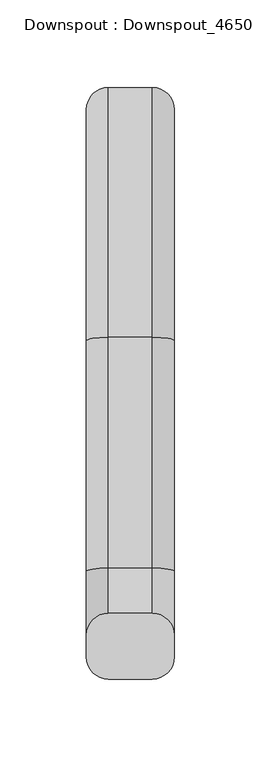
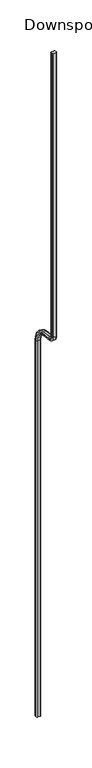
"""IFC4 building model written with IfcOpenShell, lengths in millimetres: proxy geometry, Downspout : Downspout_4650."""

from ifc_helpers import new_model, si_unit, point, frame, origin, place, context, project, spatial, polyline, circle_curve, ellipse_curve, trimmed, source, transform, mapped, element, save
from ifc_brep_helpers import plane_surface, cylinder_surface, revolved_surface, advanced_brep


def downspout_downspout_4650_81a1eef7(model_context):
    return source(origin(), model_context, "Body", "AdvancedBrep", [
        advanced_brep(
        [(-12.7, -323.85, 7975.6), (12.7, -323.85, 7975.6), (25.4, -311.15, 7975.6), (25.4, -298.45, 7975.6), (12.7, -285.75, 7975.6), (-12.7, -285.75, 7975.6), (-25.4, -298.45, 7975.6), (-25.4, -311.15, 7975.6), (-12.7, -323.85, 4643.3010696), (12.7, -323.85, 4643.3010696), (25.4, -311.15, 4643.3010696), (25.4, -262.9402297, 4586.8546809), (25.4, -129.5527464, 4565.728179), (25.4, -6.35, 4421.4762969), (25.4, -6.35, 0.0), (25.4, 6.35, 0.0), (25.4, 6.35, 4421.4762969), (25.4, -127.5660287, 4578.271821), (25.4, -260.953512, 4599.3983229), (25.4, -298.45, 4643.3010696), (12.7, -285.75, 4643.3010696), (-12.7, -285.75, 4643.3010696), (-25.4, -298.45, 4643.3010696), (-25.4, -260.953512, 4599.3983229), (-25.4, -127.5660287, 4578.271821), (-25.4, 6.35, 4421.4762969), (-25.4, 6.35, 0.0), (-25.4, -6.35, 0.0), (-25.4, -6.35, 4421.4762969), (-25.4, -129.5527464, 4565.728179), (-25.4, -262.9402297, 4586.8546809), (-25.4, -311.15, 4643.3010696), (12.7, -264.9269474, 4574.311039), (-12.7, -264.9269474, 4574.311039), (12.7, -258.9667943, 4611.9419648), (-12.7, -258.9667943, 4611.9419648), (-12.7, -131.5394641, 4553.1845371), (12.7, -131.5394641, 4553.1845371), (12.7, -125.579311, 4590.8154629), (-12.7, -125.579311, 4590.8154629), (12.7, -19.05, 4421.4762969), (-12.7, -19.05, 4421.4762969), (12.7, 19.05, 4421.4762969), (-12.7, 19.05, 4421.4762969), (-12.7, -19.05, 0.0), (-12.7, 19.05, 0.0), (12.7, 19.05, 0.0), (12.7, -19.05, 0.0)],
        [
            (0, 1),
            (1, 2, circle_curve(frame((12.7, -311.15, 7975.6), z_axis=(0.0, 0.0, 1.0), x_axis=(1.0, 0.0, 0.0)), 12.7)),
            (2, 3),
            (3, 4, circle_curve(frame((12.7, -298.45, 7975.6), z_axis=(0.0, 0.0, 1.0), x_axis=(1.0, 0.0, 0.0)), 12.7)),
            (4, 5),
            (5, 6, circle_curve(frame((-12.7, -298.45, 7975.6), z_axis=(0.0, 0.0, 1.0), x_axis=(1.0, 0.0, 0.0)), 12.7)),
            (6, 7),
            (7, 0, circle_curve(frame((-12.7, -311.15, 7975.6), z_axis=(0.0, 0.0, 1.0), x_axis=(1.0, 0.0, 0.0)), 12.7)),
            (0, 8),
            (8, 9),
            (9, 1),
            (9, 10, circle_curve(frame((12.7, -311.15, 4643.3010696), z_axis=(0.0, 0.0, 1.0), x_axis=(1.0, 0.0, 0.0)), 12.7)),
            (10, 2),
            (10, 11, circle_curve(frame((25.4, -254.0, 4643.3010696), z_axis=(1.0, 0.0, 0.0), x_axis=(0.0, -1.0, 0.0)), 57.15)),
            (11, 12),
            (12, 13, circle_curve(frame((25.4, -152.4, 4421.4762969), z_axis=(-1.0, 0.0, 0.0), x_axis=(0.0, 0.15643446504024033, 0.9876883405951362)), 146.05)),
            (13, 14),
            (14, 15),
            (15, 16),
            (16, 17, circle_curve(frame((25.4, -152.4, 4421.4762969), z_axis=(1.0, 0.0, 0.0), x_axis=(0.0, 0.15643446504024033, 0.9876883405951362)), 158.75)),
            (17, 18),
            (18, 19, circle_curve(frame((25.4, -254.0, 4643.3010696), z_axis=(-1.0, 0.0, 0.0), x_axis=(0.0, -1.0, 0.0)), 44.45)),
            (19, 3),
            (19, 20, circle_curve(frame((12.7, -298.45, 4643.3010696), z_axis=(0.0, 0.0, 1.0), x_axis=(1.0, 0.0, 0.0)), 12.7)),
            (20, 4),
            (20, 21),
            (21, 5),
            (21, 22, circle_curve(frame((-12.7, -298.45, 4643.3010696), z_axis=(0.0, 0.0, 1.0), x_axis=(1.0, 0.0, 0.0)), 12.7)),
            (22, 6),
            (22, 23, circle_curve(frame((-25.4, -254.0, 4643.3010696), z_axis=(1.0, 0.0, 0.0), x_axis=(0.0, -1.0, 0.0)), 44.45)),
            (23, 24),
            (24, 25, circle_curve(frame((-25.4, -152.4, 4421.4762969), z_axis=(-1.0, 0.0, 0.0), x_axis=(0.0, 0.15643446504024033, 0.9876883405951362)), 158.75)),
            (25, 26),
            (26, 27),
            (27, 28),
            (28, 29, circle_curve(frame((-25.4, -152.4, 4421.4762969), z_axis=(1.0, 0.0, 0.0), x_axis=(0.0, 0.15643446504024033, 0.9876883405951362)), 146.05)),
            (29, 30),
            (30, 31, circle_curve(frame((-25.4, -254.0, 4643.3010696), z_axis=(-1.0, 0.0, 0.0), x_axis=(0.0, -1.0, 0.0)), 57.15)),
            (31, 7),
            (31, 8, circle_curve(frame((-12.7, -311.15, 4643.3010696), z_axis=(0.0, 0.0, 1.0), x_axis=(1.0, 0.0, 0.0)), 12.7)),
            (32, 9, circle_curve(frame((12.7, -254.0, 4643.3010696), z_axis=(-1.0, 0.0, 0.0), x_axis=(0.0, -1.0, 0.0)), 69.85)),
            (8, 33, circle_curve(frame((-12.7, -254.0, 4643.3010696), z_axis=(1.0, 0.0, 0.0), x_axis=(0.0, -1.0, 0.0)), 69.85)),
            (33, 32),
            (32, 11, circle_curve(frame((12.7, -262.9402297, 4586.8546809), z_axis=(0.0, -0.9876883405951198, 0.1564344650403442), x_axis=(1.0, 0.0, 0.0)), 12.7)),
            (34, 20, circle_curve(frame((12.7, -254.0, 4643.3010696), z_axis=(-1.0, 0.0, 0.0), x_axis=(0.0, -1.0, 0.0)), 31.75)),
            (18, 34, circle_curve(frame((12.7, -260.953512, 4599.3983229), z_axis=(0.0, -0.9876883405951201, 0.1564344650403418), x_axis=(1.0, 0.0, 0.0)), 12.7)),
            (35, 21, circle_curve(frame((-12.7, -254.0, 4643.3010696), z_axis=(-1.0, 0.0, 0.0), x_axis=(0.0, -1.0, 0.0)), 31.75)),
            (34, 35),
            (35, 23, circle_curve(frame((-12.7, -260.953512, 4599.3983229), z_axis=(0.0, -0.9876883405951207, 0.15643446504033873), x_axis=(1.0, 0.0, 0.0)), 12.7)),
            (30, 33, circle_curve(frame((-12.7, -262.9402297, 4586.8546809), z_axis=(0.0, -0.9876883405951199, 0.15643446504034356), x_axis=(1.0, 0.0, 0.0)), 12.7)),
            (33, 36),
            (36, 37),
            (37, 32),
            (37, 12, circle_curve(frame((12.7, -129.5527464, 4565.728179), z_axis=(0.0, -0.9876883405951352, 0.15643446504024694), x_axis=(1.0, 0.0, 0.0)), 12.7)),
            (17, 38, circle_curve(frame((12.7, -127.5660287, 4578.271821), z_axis=(0.0, -0.9876883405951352, 0.15643446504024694), x_axis=(1.0, 0.0, 0.0)), 12.7)),
            (38, 34),
            (38, 39),
            (39, 35),
            (39, 24, circle_curve(frame((-12.7, -127.5660287, 4578.271821), z_axis=(0.0, -0.9876883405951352, 0.15643446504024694), x_axis=(1.0, 0.0, 0.0)), 12.7)),
            (29, 36, circle_curve(frame((-12.7, -129.5527464, 4565.728179), z_axis=(0.0, -0.9876883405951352, 0.15643446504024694), x_axis=(1.0, 0.0, 0.0)), 12.7)),
            (40, 37, circle_curve(frame((12.7, -152.4, 4421.4762969), z_axis=(1.0, 0.0, 0.0), x_axis=(0.0, 0.15643446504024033, 0.9876883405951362)), 133.35)),
            (36, 41, circle_curve(frame((-12.7, -152.4, 4421.4762969), z_axis=(-1.0, 0.0, 0.0), x_axis=(0.0, 0.15643446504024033, 0.9876883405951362)), 133.35)),
            (41, 40),
            (40, 13, circle_curve(frame((12.7, -6.35, 4421.4762969), z_axis=(0.0, 0.0, 1.0), x_axis=(1.0, 0.0, 0.0)), 12.7)),
            (42, 38, circle_curve(frame((12.7, -152.4, 4421.4762969), z_axis=(1.0, 0.0, 0.0), x_axis=(0.0, 0.15643446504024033, 0.9876883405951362)), 171.45)),
            (16, 42, circle_curve(frame((12.7, 6.35, 4421.4762969), z_axis=(0.0, 0.0, 1.0), x_axis=(1.0, 0.0, 0.0)), 12.7)),
            (43, 39, circle_curve(frame((-12.7, -152.4, 4421.4762969), z_axis=(1.0, 0.0, 0.0), x_axis=(0.0, 0.15643446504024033, 0.9876883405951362)), 171.45)),
            (42, 43),
            (43, 25, circle_curve(frame((-12.7, 6.35, 4421.4762969), z_axis=(0.0, 0.0, 1.0), x_axis=(1.0, 0.0, 0.0)), 12.7)),
            (28, 41, circle_curve(frame((-12.7, -6.35, 4421.4762969), z_axis=(0.0, 0.0, 1.0), x_axis=(1.0, 0.0, 0.0)), 12.7)),
            (44, 27, circle_curve(frame((-12.7, -6.35, 0.0), z_axis=(0.0, 0.0, -1.0), x_axis=(1.0, 0.0, 0.0)), 12.7)),
            (26, 45, circle_curve(frame((-12.7, 6.35, 0.0), z_axis=(0.0, 0.0, -1.0), x_axis=(1.0, 0.0, 0.0)), 12.7)),
            (45, 46),
            (46, 15, circle_curve(frame((12.7, 6.35, 0.0), z_axis=(0.0, 0.0, -1.0), x_axis=(1.0, 0.0, 0.0)), 12.7)),
            (14, 47, circle_curve(frame((12.7, -6.35, 0.0), z_axis=(0.0, 0.0, -1.0), x_axis=(1.0, 0.0, 0.0)), 12.7)),
            (47, 44),
            (41, 44),
            (47, 40),
            (46, 42),
            (45, 43),
        ],
        [
            plane_surface(frame((0.0, -304.8, 7975.6), z_axis=(0.0, 0.0, 1.0), x_axis=(1.0, 0.0, 0.0))),
            plane_surface(frame((-12.7, -323.85, 7975.6), z_axis=(0.0, -1.0, 0.0), x_axis=(0.0, 0.0, -1.0))),
            cylinder_surface(frame((12.7, -311.15, 7975.6), z_axis=(0.0, 0.0, 1.0), x_axis=(1.0, 0.0, 0.0)), 12.7),
            plane_surface(frame((25.4, -311.15, 7975.6), z_axis=(1.0, 0.0, 0.0), x_axis=(0.0, 0.0, -1.0))),
            cylinder_surface(frame((12.7, -298.45, 7975.6), z_axis=(0.0, 0.0, 1.0), x_axis=(1.0, 0.0, 0.0)), 12.7),
            plane_surface(frame((12.7, -285.75, 7975.6), z_axis=(0.0, 1.0, 0.0), x_axis=(0.0, 0.0, -1.0))),
            cylinder_surface(frame((-12.7, -298.45, 7975.6), z_axis=(0.0, 0.0, 1.0), x_axis=(1.0, 0.0, 0.0)), 12.7),
            plane_surface(frame((-25.4, -298.45, 7975.6), z_axis=(-1.0, 0.0, 0.0), x_axis=(0.0, 0.0, -1.0))),
            cylinder_surface(frame((-12.7, -311.15, 7975.6), z_axis=(0.0, 0.0, 1.0), x_axis=(1.0, 0.0, 0.0)), 12.7),
            cylinder_surface(frame((0.0, -254.0, 4643.3010696), z_axis=(1.0, 0.0, 0.0), x_axis=(0.0, -1.0, 0.0)), 69.85),
            revolved_surface(trimmed(ellipse_curve(frame((12.7, -311.15, 4643.3010696), z_axis=(0.0, 0.0, 1.0), x_axis=(1.0, 0.0, 0.0)), 12.7, 12.7), [point((12.7, -323.85, 4643.3010696))], [point((25.4, -311.15, 4643.3010696))], True, "CARTESIAN"), (0.0, -254.0, 4643.3010696), (1.0, 0.0, 0.0)),
            revolved_surface(trimmed(ellipse_curve(frame((12.7, -298.45, 4643.3010696), z_axis=(0.0, 0.0, 1.0), x_axis=(1.0, 0.0, 0.0)), 12.7, 12.7), [point((25.4, -298.45, 4643.3010696))], [point((12.7, -285.75, 4643.3010696))], True, "CARTESIAN"), (0.0, -254.0, 4643.3010696), (1.0, 0.0, 0.0)),
            revolved_surface(polyline([(12.7, -285.75, 4643.3010696), (-12.7, -285.75, 4643.3010696)]), (0.0, -254.0, 4643.3010696), (1.0, 0.0, 0.0)),
            revolved_surface(trimmed(ellipse_curve(frame((-12.7, -298.45, 4643.3010696), z_axis=(0.0, 0.0, 1.0), x_axis=(1.0, 0.0, 0.0)), 12.7, 12.7), [point((-12.7, -285.75, 4643.3010696))], [point((-25.4, -298.45, 4643.3010696))], True, "CARTESIAN"), (0.0, -254.0, 4643.3010696), (1.0, 0.0, 0.0)),
            revolved_surface(trimmed(ellipse_curve(frame((-12.7, -311.15, 4643.3010696), z_axis=(0.0, 0.0, 1.0), x_axis=(1.0, 0.0, 0.0)), 12.7, 12.7), [point((-25.4, -311.15, 4643.3010696))], [point((-12.7, -323.85, 4643.3010696))], True, "CARTESIAN"), (0.0, -254.0, 4643.3010696), (1.0, 0.0, 0.0)),
            plane_surface(frame((-12.7, -264.9269474, 4574.311039), z_axis=(0.0, -0.15643446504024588, -0.9876883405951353), x_axis=(0.0, 0.9876883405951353, -0.15643446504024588))),
            cylinder_surface(frame((12.7, -262.9402297, 4586.8546809), z_axis=(0.0, -0.9876883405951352, 0.15643446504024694), x_axis=(1.0, 0.0, 0.0)), 12.7),
            cylinder_surface(frame((12.7, -260.953512, 4599.3983229), z_axis=(0.0, -0.9876883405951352, 0.15643446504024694), x_axis=(1.0, 0.0, 0.0)), 12.7),
            plane_surface(frame((12.7, -258.9667943, 4611.9419648), z_axis=(0.0, 0.15643446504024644, 0.9876883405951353), x_axis=(0.0, 0.9876883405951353, -0.15643446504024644))),
            cylinder_surface(frame((-12.7, -260.953512, 4599.3983229), z_axis=(0.0, -0.9876883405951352, 0.15643446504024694), x_axis=(1.0, 0.0, 0.0)), 12.7),
            cylinder_surface(frame((-12.7, -262.9402297, 4586.8546809), z_axis=(0.0, -0.9876883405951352, 0.15643446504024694), x_axis=(1.0, 0.0, 0.0)), 12.7),
            revolved_surface(polyline([(-12.7, -131.53946408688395, 4553.184537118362), (12.7, -131.53946408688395, 4553.184537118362)]), (0.0, -152.4, 4421.4762969), (-1.0, 0.0, 0.0)),
            revolved_surface(trimmed(ellipse_curve(frame((12.7, -129.5527464, 4565.728179), z_axis=(0.0, -0.9876883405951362, 0.1564344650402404), x_axis=(1.0, 0.0, 0.0)), 12.7, 12.7), [point((12.7, -131.5394641, 4553.1845371))], [point((25.4, -129.5527464, 4565.728179))], True, "CARTESIAN"), (0.0, -152.4, 4421.4762969), (-1.0, 0.0, 0.0)),
            revolved_surface(trimmed(ellipse_curve(frame((12.7, -127.5660287, 4578.271821), z_axis=(0.0, -0.9876883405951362, 0.1564344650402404), x_axis=(1.0, 0.0, 0.0)), 12.7, 12.7), [point((25.4, -127.5660287, 4578.271821))], [point((12.7, -125.579311, 4590.8154629))], True, "CARTESIAN"), (0.0, -152.4, 4421.4762969), (-1.0, 0.0, 0.0)),
            cylinder_surface(frame((0.0, -152.4, 4421.4762969), z_axis=(-1.0, 0.0, 0.0), x_axis=(0.0, 0.15643446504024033, 0.9876883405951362)), 171.45),
            revolved_surface(trimmed(ellipse_curve(frame((-12.7, -127.5660287, 4578.271821), z_axis=(0.0, -0.9876883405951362, 0.1564344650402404), x_axis=(1.0, 0.0, 0.0)), 12.7, 12.7), [point((-12.7, -125.579311, 4590.8154629))], [point((-25.4, -127.5660287, 4578.271821))], True, "CARTESIAN"), (0.0, -152.4, 4421.4762969), (-1.0, 0.0, 0.0)),
            revolved_surface(trimmed(ellipse_curve(frame((-12.7, -129.5527464, 4565.728179), z_axis=(0.0, -0.9876883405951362, 0.1564344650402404), x_axis=(1.0, 0.0, 0.0)), 12.7, 12.7), [point((-25.4, -129.5527464, 4565.728179))], [point((-12.7, -131.5394641, 4553.1845371))], True, "CARTESIAN"), (0.0, -152.4, 4421.4762969), (-1.0, 0.0, 0.0)),
            plane_surface(frame((0.0, 0.0, 0.0), z_axis=(0.0, 0.0, -1.0), x_axis=(1.0, 0.0, 0.0))),
            plane_surface(frame((-12.7, -19.05, 4421.4762969), z_axis=(0.0, -1.0, 0.0), x_axis=(0.0, 0.0, -1.0))),
            cylinder_surface(frame((12.7, -6.35, 4421.4762969), z_axis=(0.0, 0.0, 1.0), x_axis=(1.0, 0.0, 0.0)), 12.7),
            cylinder_surface(frame((12.7, 6.35, 4421.4762969), z_axis=(0.0, 0.0, 1.0), x_axis=(1.0, 0.0, 0.0)), 12.7),
            plane_surface(frame((12.7, 19.05, 4421.4762969), z_axis=(0.0, 1.0, 0.0), x_axis=(0.0, 0.0, -1.0))),
            cylinder_surface(frame((-12.7, 6.35, 4421.4762969), z_axis=(0.0, 0.0, 1.0), x_axis=(1.0, 0.0, 0.0)), 12.7),
            cylinder_surface(frame((-12.7, -6.35, 4421.4762969), z_axis=(0.0, 0.0, 1.0), x_axis=(1.0, 0.0, 0.0)), 12.7),
        ],
        [
            (0, [[1, 2, 3, 4, 5, 6, 7, 8]]),
            (1, [[-1, 9, 10, 11]]),
            (2, [[-2, -11, 12, 13]]),
            (3, [[-3, -13, 14, 15, 16, 17, 18, 19, 20, 21, 22, 23]]),
            (4, [[-4, -23, 24, 25]]),
            (5, [[-5, -25, 26, 27]]),
            (6, [[-6, -27, 28, 29]]),
            (7, [[-7, -29, 30, 31, 32, 33, 34, 35, 36, 37, 38, 39]]),
            (8, [[-8, -39, 40, -9]]),
            (9, [[41, -10, 42, 43]]),
            (10, [[-14, -12, -41, 44]]),
            (11, [[45, -24, -22, 46]]),
            (12, [[47, -26, -45, 48]]),
            (13, [[-30, -28, -47, 49]]),
            (14, [[-42, -40, -38, 50]]),
            (15, [[-43, 51, 52, 53]]),
            (16, [[-44, -53, 54, -15]]),
            (17, [[-46, -21, 55, 56]]),
            (18, [[-48, -56, 57, 58]]),
            (19, [[-49, -58, 59, -31]]),
            (20, [[-50, -37, 60, -51]]),
            (21, [[61, -52, 62, 63]]),
            (22, [[-16, -54, -61, 64]]),
            (23, [[65, -55, -20, 66]]),
            (24, [[67, -57, -65, 68]]),
            (25, [[-32, -59, -67, 69]]),
            (26, [[-62, -60, -36, 70]]),
            (27, [[71, -34, 72, 73, 74, -18, 75, 76]]),
            (28, [[-63, 77, -76, 78]]),
            (29, [[-64, -78, -75, -17]]),
            (30, [[-66, -19, -74, 79]]),
            (31, [[-68, -79, -73, 80]]),
            (32, [[-69, -80, -72, -33]]),
            (33, [[-70, -35, -71, -77]]),
        ],
    ),
    ])


if __name__ == "__main__":
    model = new_model("IFC4")
    model_context = context("Model", 3, world=origin())
    ifc_project = project(units=[si_unit("LENGTHUNIT", "METRE", prefix="MILLI")], contexts=[model_context])
    site = spatial("IfcSite", under=ifc_project)
    building = spatial("IfcBuilding", under=site)
    placement = place(None, origin())
    downspout_downspout_4650_shape = downspout_downspout_4650_81a1eef7(model_context)
    element("IfcBuildingElementProxy", 1, Name="Downspout : Downspout_4650", ObjectType="Downspout : Downspout_4650", at=placement, inside=building, context=model_context, shape_type="MappedRepresentation", body=[
        mapped(downspout_downspout_4650_shape, transform((0.0, 0.0, 0.0), x_axis=(1.0, 0.0, 0.0), y_axis=(0.0, 1.0, 0.0), z_axis=(0.0, 0.0, 1.0))),
    ])
    save(model, "model.ifc")
